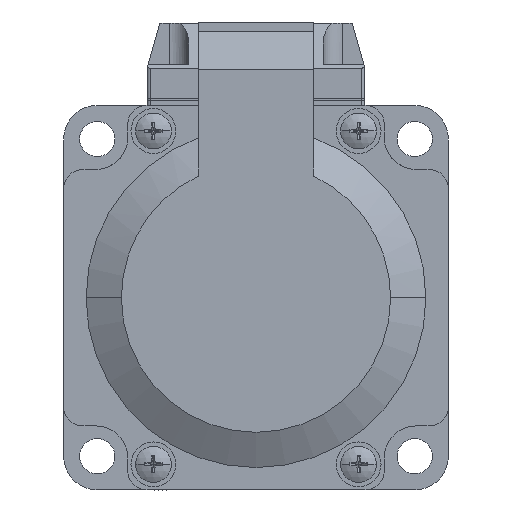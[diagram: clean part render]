
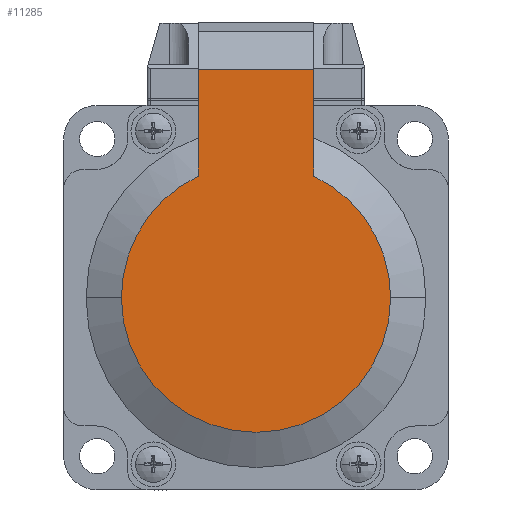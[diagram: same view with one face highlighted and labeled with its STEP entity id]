
A CAD part, left-side view. The second image highlights one B-rep face of the part: STEP entity #11285.
In plain terms, the highlighted planar face has unit normal (-1, 0, 0).
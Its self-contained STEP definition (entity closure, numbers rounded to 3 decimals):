
#236 = EDGE_CURVE ( 'NONE', #7138, #18541, #17694, .T. ) ;
#407 = CARTESIAN_POINT ( 'NONE',  ( -27., -9., 35.583 ) ) ;
#542 = CARTESIAN_POINT ( 'NONE',  ( -27., 9., 18.974 ) ) ;
#2304 = VERTEX_POINT ( 'NONE', #7296 ) ;
#2804 = CARTESIAN_POINT ( 'NONE',  ( -27., -9., 18.974 ) ) ;
#3028 = CIRCLE ( 'NONE', #15851, 21. ) ;
#3359 = DIRECTION ( 'NONE',  ( -1., 0., 0. ) ) ;
#4030 = AXIS2_PLACEMENT_3D ( 'NONE', #13420, #8715, #19305 ) ;
#4416 = AXIS2_PLACEMENT_3D ( 'NONE', #9667, #17467, #18993 ) ;
#4576 = EDGE_CURVE ( 'NONE', #7511, #7138, #3028, .T. ) ;
#5101 = PLANE ( 'NONE',  #4416 ) ;
#5122 = DIRECTION ( 'NONE',  ( 0., 0., 1. ) ) ;
#5131 = DIRECTION ( 'NONE',  ( 0., 0., 1. ) ) ;
#5304 = LINE ( 'NONE', #407, #15013 ) ;
#6603 = CARTESIAN_POINT ( 'NONE',  ( -27., 9., 35.583 ) ) ;
#6854 = DIRECTION ( 'NONE',  ( 0., -1., 0. ) ) ;
#7052 = LINE ( 'NONE', #11556, #13945 ) ;
#7138 = VERTEX_POINT ( 'NONE', #16068 ) ;
#7296 = CARTESIAN_POINT ( 'NONE',  ( -27., 9., 35.583 ) ) ;
#7340 = VERTEX_POINT ( 'NONE', #2804 ) ;
#7511 = VERTEX_POINT ( 'NONE', #542 ) ;
#7599 = EDGE_CURVE ( 'NONE', #7340, #18387, #5304, .T. ) ;
#8167 = DIRECTION ( 'NONE',  ( 0., 1., 0. ) ) ;
#8218 = CIRCLE ( 'NONE', #4030, 21. ) ;
#8715 = DIRECTION ( 'NONE',  ( -1., 0., 0. ) ) ;
#9253 = ORIENTED_EDGE ( 'NONE', *, *, #17033, .T. ) ;
#9667 = CARTESIAN_POINT ( 'NONE',  ( -27., 21., 0. ) ) ;
#9747 = DIRECTION ( 'NONE',  ( -1., 0., 0. ) ) ;
#9764 = LINE ( 'NONE', #6603, #19468 ) ;
#10533 = CARTESIAN_POINT ( 'NONE',  ( -27., -9., 35.583 ) ) ;
#11285 = ADVANCED_FACE ( 'NONE', ( #13200 ), #5101, .T. ) ;
#11556 = CARTESIAN_POINT ( 'NONE',  ( -27., 9., 35.583 ) ) ;
#11994 = ORIENTED_EDGE ( 'NONE', *, *, #15723, .F. ) ;
#12305 = ORIENTED_EDGE ( 'NONE', *, *, #7599, .T. ) ;
#12381 = CARTESIAN_POINT ( 'NONE',  ( -27., 0., 0. ) ) ;
#12474 = ORIENTED_EDGE ( 'NONE', *, *, #4576, .T. ) ;
#12487 = AXIS2_PLACEMENT_3D ( 'NONE', #14202, #9747, #8167 ) ;
#13094 = ORIENTED_EDGE ( 'NONE', *, *, #13389, .F. ) ;
#13200 = FACE_OUTER_BOUND ( 'NONE', #13819, .T. ) ;
#13389 = EDGE_CURVE ( 'NONE', #7511, #2304, #9764, .T. ) ;
#13420 = CARTESIAN_POINT ( 'NONE',  ( -27., 0., 0. ) ) ;
#13819 = EDGE_LOOP ( 'NONE', ( #13094, #12474, #15177, #9253, #12305, #11994 ) ) ;
#13945 = VECTOR ( 'NONE', #6854, 1000. ) ;
#14202 = CARTESIAN_POINT ( 'NONE',  ( -27., 0., 0. ) ) ;
#15013 = VECTOR ( 'NONE', #5122, 1000. ) ;
#15177 = ORIENTED_EDGE ( 'NONE', *, *, #236, .T. ) ;
#15723 = EDGE_CURVE ( 'NONE', #2304, #18387, #7052, .T. ) ;
#15851 = AXIS2_PLACEMENT_3D ( 'NONE', #12381, #3359, #18260 ) ;
#16068 = CARTESIAN_POINT ( 'NONE',  ( -27., 21., 0. ) ) ;
#17033 = EDGE_CURVE ( 'NONE', #18541, #7340, #8218, .T. ) ;
#17285 = CARTESIAN_POINT ( 'NONE',  ( -27., -21., 0. ) ) ;
#17467 = DIRECTION ( 'NONE',  ( -1., 0., 0. ) ) ;
#17694 = CIRCLE ( 'NONE', #12487, 21. ) ;
#18260 = DIRECTION ( 'NONE',  ( 0., 1., 0. ) ) ;
#18387 = VERTEX_POINT ( 'NONE', #10533 ) ;
#18541 = VERTEX_POINT ( 'NONE', #17285 ) ;
#18993 = DIRECTION ( 'NONE',  ( 0., 1., 0. ) ) ;
#19305 = DIRECTION ( 'NONE',  ( 0., 1., 0. ) ) ;
#19468 = VECTOR ( 'NONE', #5131, 1000. ) ;
